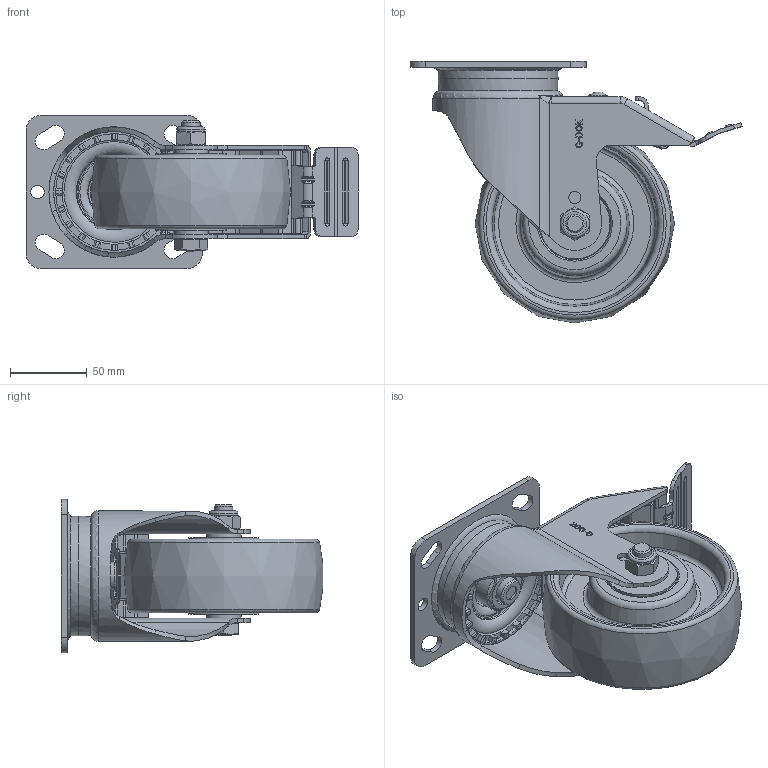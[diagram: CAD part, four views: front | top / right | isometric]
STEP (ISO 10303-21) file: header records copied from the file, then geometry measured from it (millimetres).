
FILE_DESCRIPTION(/* description */ (''),/* implementation_level */ '2;1');
FILE_NAME(/* name */ '\\192.168.10.38\지덕공유\1.기술연구소\2.연구개발 진행중\124.SPH-Series_중하중_2025.02.11\1.도면\2. 3D\홈페이지용\SPH-130-BSF-NYD.stp',/* time_stamp */ '2026-05-19T07:42:50+09:00',/* author */ ('admin'),/* organization */ ('지덕산업'),/* preprocessor_version */ 'ST-DEVELOPER v18.1',/* originating_system */ 'Autodesk Inventor 2021',/* authorisation */ '');
FILE_SCHEMA (('AUTOMOTIVE_DESIGN { 1 0 10303 214 3 1 1 }'));
Products named in the file (1): SPH-130-BSF-NYD
Bounding box: 216.54 x 170.74 x 100 mm (x, y, z)
Volume: 685187.4 mm3; surface area: 156109.2 mm2
Topology: 1 solids, 2 shells, 1606 faces, 4381 edges, 2846 vertices
Faces by surface type: plane 710, bspline 528, cylinder 272, cone 49, torus 46, sphere 1
Full cylindrical faces by diameter (mm): 6 x1, 8 x5, 9 x3, 10 x1, 12 x2, 18 x2, 18.5 x1, 31 x1, 31.177 x1, 46.001 x2
Entity records: 55828 total; most frequent: CARTESIAN_POINT 18407, ORIENTED_EDGE 8726, DIRECTION 6155, EDGE_CURVE 4365, VERTEX_POINT 2846, LINE 2433, VECTOR 2433, AXIS2_PLACEMENT_3D 1861
